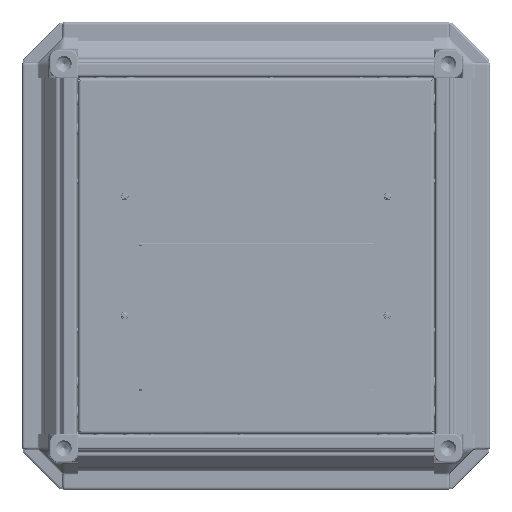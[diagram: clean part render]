
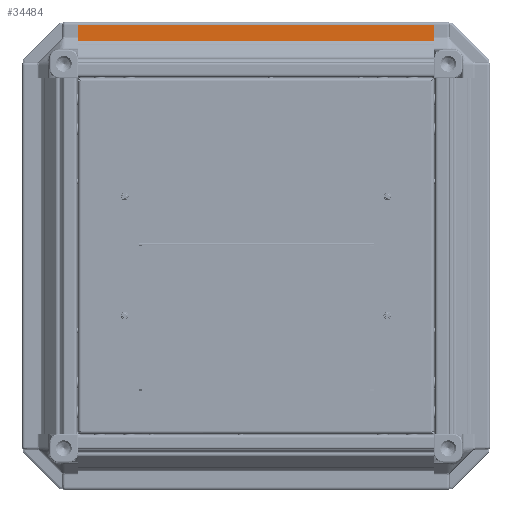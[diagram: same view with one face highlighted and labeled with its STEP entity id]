
A CAD part, front view. The second image highlights one B-rep face of the part: STEP entity #34484.
In plain terms, the highlighted planar face has unit normal (0, -1, 0) as drawn and (-0.707, -0.707, 0) by its records, which use the part's own axes.
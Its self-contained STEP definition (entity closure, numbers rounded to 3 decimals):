
#935 = CARTESIAN_POINT ( 'NONE',  ( 12.747, 1.707, 298. ) ) ;
#1091 = CARTESIAN_POINT ( 'NONE',  ( 12.747, 1.707, 0. ) ) ;
#1249 = VECTOR ( 'NONE', #25057, 1000. ) ;
#2511 = VERTEX_POINT ( 'NONE', #33365 ) ;
#3801 = LINE ( 'NONE', #22410, #36231 ) ;
#3960 = LINE ( 'NONE', #21876, #37827 ) ;
#4571 = ORIENTED_EDGE ( 'NONE', *, *, #42887, .F. ) ;
#4573 = EDGE_CURVE ( 'NONE', #42832, #40135, #3960, .T. ) ;
#4790 = PLANE ( 'NONE',  #47597 ) ;
#6058 = EDGE_LOOP ( 'NONE', ( #31488, #27458, #4571, #31406 ) ) ;
#9855 = EDGE_CURVE ( 'NONE', #40135, #12775, #36283, .T. ) ;
#10392 = CARTESIAN_POINT ( 'NONE',  ( 12.747, 1.707, 0. ) ) ;
#11296 = DIRECTION ( 'NONE',  ( 0., 0., -1. ) ) ;
#12363 = VECTOR ( 'NONE', #25620, 1000. ) ;
#12775 = VERTEX_POINT ( 'NONE', #28433 ) ;
#19305 = DIRECTION ( 'NONE',  ( 0.707, 0.707, 0. ) ) ;
#21876 = CARTESIAN_POINT ( 'NONE',  ( 12.747, 1.707, 298. ) ) ;
#22410 = CARTESIAN_POINT ( 'NONE',  ( 22.386, -7.932, 298. ) ) ;
#24565 = CARTESIAN_POINT ( 'NONE',  ( 12.747, 1.707, 298. ) ) ;
#25057 = DIRECTION ( 'NONE',  ( 0.707, -0.707, 0. ) ) ;
#25620 = DIRECTION ( 'NONE',  ( 0.707, -0.707, 0. ) ) ;
#26757 = CARTESIAN_POINT ( 'NONE',  ( 12.747, 1.707, 298. ) ) ;
#27458 = ORIENTED_EDGE ( 'NONE', *, *, #45799, .F. ) ;
#28433 = CARTESIAN_POINT ( 'NONE',  ( 22.386, -7.932, 0. ) ) ;
#29973 = FACE_OUTER_BOUND ( 'NONE', #6058, .T. ) ;
#31406 = ORIENTED_EDGE ( 'NONE', *, *, #4573, .T. ) ;
#31488 = ORIENTED_EDGE ( 'NONE', *, *, #9855, .T. ) ;
#33365 = CARTESIAN_POINT ( 'NONE',  ( 22.386, -7.932, 298. ) ) ;
#34484 = ADVANCED_FACE ( 'NONE', ( #29973 ), #4790, .F. ) ;
#35718 = LINE ( 'NONE', #24565, #1249 ) ;
#36231 = VECTOR ( 'NONE', #11296, 1000. ) ;
#36283 = LINE ( 'NONE', #10392, #12363 ) ;
#36650 = DIRECTION ( 'NONE',  ( 0., 0., -1. ) ) ;
#37490 = DIRECTION ( 'NONE',  ( -0.707, 0.707, 0. ) ) ;
#37827 = VECTOR ( 'NONE', #36650, 1000. ) ;
#40135 = VERTEX_POINT ( 'NONE', #1091 ) ;
#42832 = VERTEX_POINT ( 'NONE', #26757 ) ;
#42887 = EDGE_CURVE ( 'NONE', #42832, #2511, #35718, .T. ) ;
#45799 = EDGE_CURVE ( 'NONE', #2511, #12775, #3801, .T. ) ;
#47597 = AXIS2_PLACEMENT_3D ( 'NONE', #935, #19305, #37490 ) ;
